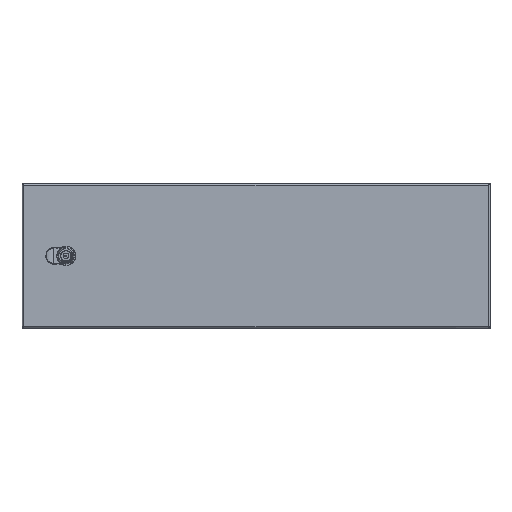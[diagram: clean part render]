
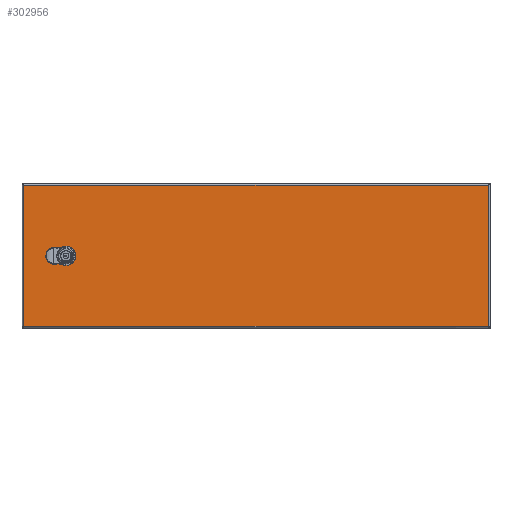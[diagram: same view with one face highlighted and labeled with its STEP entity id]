
A CAD part, top view. The second image highlights one B-rep face of the part: STEP entity #302956.
In plain terms, the highlighted planar face has unit normal (0, 0, 1).
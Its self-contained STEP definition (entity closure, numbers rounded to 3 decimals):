
#294581=CARTESIAN_POINT(' ',(-399.011,122.733,269.003));
#294582=VERTEX_POINT(' ',#294581);
#296016=CARTESIAN_POINT(' ',(389.389,122.733,269.003));
#296017=VERTEX_POINT(' ',#296016);
#296931=CARTESIAN_POINT(' ',(389.389,122.733,269.003));
#296936=DIRECTION(' ',(-1.,0.,0.));
#296941=VECTOR(' ',#296936,1.);
#296946=LINE('',#296931,#296941);
#296951=EDGE_CURVE(' ',#296017,#294582,#296946,.T.);
#300811=CARTESIAN_POINT(' ',(389.389,-116.667,269.003));
#300812=VERTEX_POINT(' ',#300811);
#302396=CARTESIAN_POINT(' ',(-399.011,-116.667,269.003));
#302397=VERTEX_POINT(' ',#302396);
#302826=DIRECTION(' ',(-0.,-0.,1.));
#302831=CARTESIAN_POINT(' ',(389.389,-116.667,269.003));
#302836=DIRECTION(' ',(0.,1.,0.));
#302841=AXIS2_PLACEMENT_3D(' ',#302831,#302826,#302836);
#302846=PLANE('NONE',#302841);
#302851=CARTESIAN_POINT(' ',(-399.011,-116.667,269.003));
#302856=DIRECTION(' ',(1.,0.,0.));
#302861=VECTOR(' ',#302856,1.);
#302866=LINE('',#302851,#302861);
#302871=EDGE_CURVE(' ',#302397,#300812,#302866,.T.);
#302876=ORIENTED_EDGE(' ',*,*,#302871,.T.);
#302881=CARTESIAN_POINT(' ',(389.389,122.733,269.003));
#302886=DIRECTION(' ',(0.,-1.,0.));
#302891=VECTOR(' ',#302886,1.);
#302896=LINE('',#302881,#302891);
#302901=EDGE_CURVE(' ',#296017,#300812,#302896,.T.);
#302906=ORIENTED_EDGE(' ',*,*,#302901,.F.);
#302911=ORIENTED_EDGE(' ',*,*,#296951,.T.);
#302916=CARTESIAN_POINT(' ',(-399.011,122.733,269.003));
#302921=DIRECTION(' ',(0.,-1.,0.));
#302926=VECTOR(' ',#302921,1.);
#302931=LINE('',#302916,#302926);
#302936=EDGE_CURVE(' ',#294582,#302397,#302931,.T.);
#302941=ORIENTED_EDGE(' ',*,*,#302936,.T.);
#302946=EDGE_LOOP(' ',(#302876,#302906,#302911,#302941));
#302951=FACE_OUTER_BOUND(' ',#302946,.T.);
#302956=ADVANCED_FACE('NONE',(#302951),#302846,.T.);
